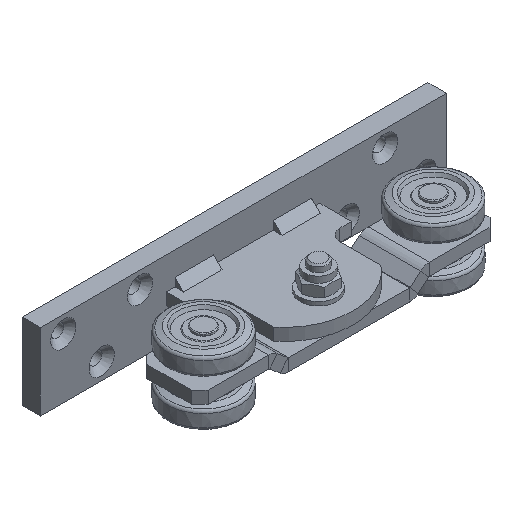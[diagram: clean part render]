
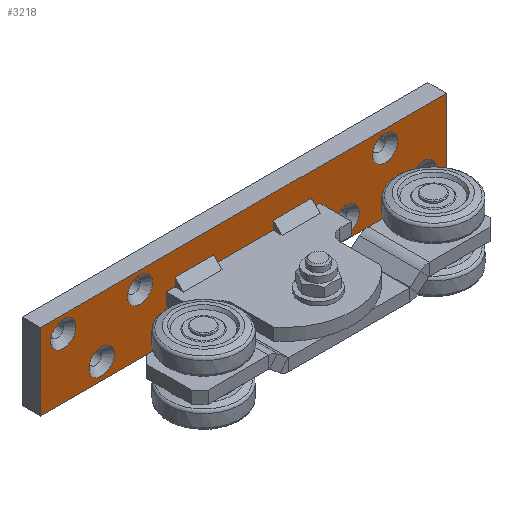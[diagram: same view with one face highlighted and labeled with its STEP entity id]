
A CAD part, isometric view. The second image highlights one B-rep face of the part: STEP entity #3218.
In plain terms, the highlighted planar face has unit normal (0, -1, 0) as drawn and (0, 0, 1) by its records, which use the part's own axes.
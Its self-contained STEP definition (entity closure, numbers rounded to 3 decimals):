
#182=FACE_BOUND('',#784,.T.);
#183=FACE_BOUND('',#785,.T.);
#184=FACE_BOUND('',#786,.T.);
#185=FACE_BOUND('',#787,.T.);
#186=FACE_BOUND('',#788,.T.);
#187=FACE_BOUND('',#789,.T.);
#268=CIRCLE('',#3462,8.25);
#271=CIRCLE('',#3467,8.25);
#274=CIRCLE('',#3472,8.25);
#277=CIRCLE('',#3477,8.25);
#280=CIRCLE('',#3482,8.25);
#283=CIRCLE('',#3487,8.25);
#552=FACE_OUTER_BOUND('',#783,.T.);
#783=EDGE_LOOP('',(#2573,#2574,#2575,#2576));
#784=EDGE_LOOP('',(#2577));
#785=EDGE_LOOP('',(#2578));
#786=EDGE_LOOP('',(#2579));
#787=EDGE_LOOP('',(#2580));
#788=EDGE_LOOP('',(#2581));
#789=EDGE_LOOP('',(#2582));
#1100=LINE('',#5104,#1352);
#1104=LINE('',#5111,#1356);
#1107=LINE('',#5117,#1359);
#1109=LINE('',#5120,#1361);
#1352=VECTOR('',#4164,50.);
#1356=VECTOR('',#4170,265.);
#1359=VECTOR('',#4175,50.);
#1361=VECTOR('',#4179,265.);
#1562=VERTEX_POINT('',#5050);
#1565=VERTEX_POINT('',#5058);
#1568=VERTEX_POINT('',#5066);
#1571=VERTEX_POINT('',#5074);
#1574=VERTEX_POINT('',#5082);
#1577=VERTEX_POINT('',#5090);
#1582=VERTEX_POINT('',#5101);
#1583=VERTEX_POINT('',#5103);
#1585=VERTEX_POINT('',#5109);
#1587=VERTEX_POINT('',#5115);
#1921=EDGE_CURVE('',#1562,#1562,#268,.T.);
#1924=EDGE_CURVE('',#1565,#1565,#271,.T.);
#1927=EDGE_CURVE('',#1568,#1568,#274,.T.);
#1930=EDGE_CURVE('',#1571,#1571,#277,.T.);
#1933=EDGE_CURVE('',#1574,#1574,#280,.T.);
#1936=EDGE_CURVE('',#1577,#1577,#283,.T.);
#1941=EDGE_CURVE('',#1582,#1583,#1100,.T.);
#1945=EDGE_CURVE('',#1585,#1582,#1104,.T.);
#1948=EDGE_CURVE('',#1587,#1585,#1107,.T.);
#1950=EDGE_CURVE('',#1583,#1587,#1109,.T.);
#2573=ORIENTED_EDGE('',*,*,#1950,.F.);
#2574=ORIENTED_EDGE('',*,*,#1941,.F.);
#2575=ORIENTED_EDGE('',*,*,#1945,.F.);
#2576=ORIENTED_EDGE('',*,*,#1948,.F.);
#2577=ORIENTED_EDGE('',*,*,#1921,.T.);
#2578=ORIENTED_EDGE('',*,*,#1924,.T.);
#2579=ORIENTED_EDGE('',*,*,#1927,.T.);
#2580=ORIENTED_EDGE('',*,*,#1930,.T.);
#2581=ORIENTED_EDGE('',*,*,#1933,.T.);
#2582=ORIENTED_EDGE('',*,*,#1936,.T.);
#3057=PLANE('',#3495);
#3218=ADVANCED_FACE('',(#552,#182,#183,#184,#185,#186,#187),#3057,.T.);
#3462=AXIS2_PLACEMENT_3D('',#5051,#4102,#4103);
#3467=AXIS2_PLACEMENT_3D('',#5059,#4112,#4113);
#3472=AXIS2_PLACEMENT_3D('',#5067,#4122,#4123);
#3477=AXIS2_PLACEMENT_3D('',#5075,#4132,#4133);
#3482=AXIS2_PLACEMENT_3D('',#5083,#4142,#4143);
#3487=AXIS2_PLACEMENT_3D('',#5091,#4152,#4153);
#3495=AXIS2_PLACEMENT_3D('',#5121,#4180,#4181);
#4102=DIRECTION('center_axis',(0.,0.,-1.));
#4103=DIRECTION('ref_axis',(1.,0.,0.));
#4112=DIRECTION('center_axis',(0.,0.,-1.));
#4113=DIRECTION('ref_axis',(1.,0.,0.));
#4122=DIRECTION('center_axis',(0.,0.,-1.));
#4123=DIRECTION('ref_axis',(1.,0.,0.));
#4132=DIRECTION('center_axis',(0.,0.,-1.));
#4133=DIRECTION('ref_axis',(1.,0.,0.));
#4142=DIRECTION('center_axis',(0.,0.,-1.));
#4143=DIRECTION('ref_axis',(1.,0.,0.));
#4152=DIRECTION('center_axis',(0.,0.,-1.));
#4153=DIRECTION('ref_axis',(1.,0.,0.));
#4164=DIRECTION('',(0.,1.,0.));
#4170=DIRECTION('',(-1.,0.,0.));
#4175=DIRECTION('',(0.,-1.,0.));
#4179=DIRECTION('',(1.,0.,0.));
#4180=DIRECTION('center_axis',(0.,0.,1.));
#4181=DIRECTION('ref_axis',(1.,0.,0.));
#5050=CARTESIAN_POINT('',(125.75,-14.,0.));
#5051=CARTESIAN_POINT('Origin',(117.5,-14.,0.));
#5058=CARTESIAN_POINT('',(-59.25,14.,0.));
#5059=CARTESIAN_POINT('Origin',(-67.5,14.,0.));
#5066=CARTESIAN_POINT('',(75.75,-14.,0.));
#5067=CARTESIAN_POINT('Origin',(67.5,-14.,0.));
#5074=CARTESIAN_POINT('',(100.75,14.,0.));
#5075=CARTESIAN_POINT('Origin',(92.5,14.,0.));
#5082=CARTESIAN_POINT('',(-84.25,-14.,0.));
#5083=CARTESIAN_POINT('Origin',(-92.5,-14.,0.));
#5090=CARTESIAN_POINT('',(-109.25,14.,0.));
#5091=CARTESIAN_POINT('Origin',(-117.5,14.,0.));
#5101=CARTESIAN_POINT('',(-132.5,-25.,0.));
#5103=CARTESIAN_POINT('',(-132.5,25.,0.));
#5104=CARTESIAN_POINT('',(-132.5,-25.,0.));
#5109=CARTESIAN_POINT('',(132.5,-25.,0.));
#5111=CARTESIAN_POINT('',(132.5,-25.,0.));
#5115=CARTESIAN_POINT('',(132.5,25.,0.));
#5117=CARTESIAN_POINT('',(132.5,25.,0.));
#5120=CARTESIAN_POINT('',(-132.5,25.,0.));
#5121=CARTESIAN_POINT('Origin',(0.,0.,
0.));
